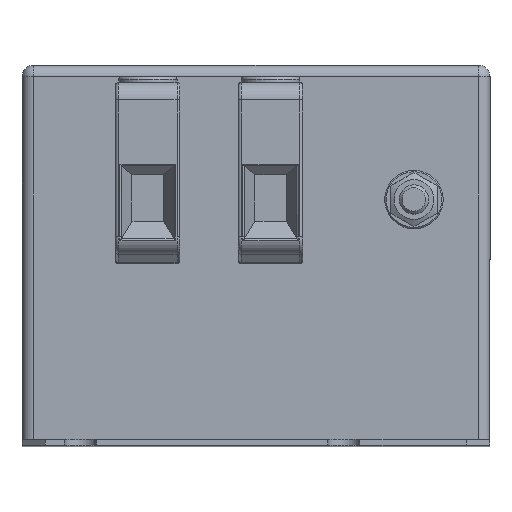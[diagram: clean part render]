
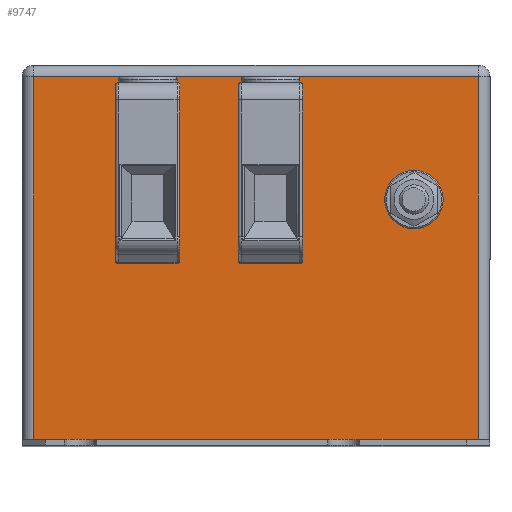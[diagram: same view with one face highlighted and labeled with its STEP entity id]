
A CAD part, top view. The second image highlights one B-rep face of the part: STEP entity #9747.
In plain terms, the highlighted planar face has unit normal (0, 0, 1).
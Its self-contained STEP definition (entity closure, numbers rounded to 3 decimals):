
#340=CARTESIAN_POINT('',(38.0,-31.5,70.0));
#341=VERTEX_POINT('',#340);
#349=CARTESIAN_POINT('',(-38.0,-31.5,70.0));
#350=VERTEX_POINT('',#349);
#351=CARTESIAN_POINT('',(-38.,-31.5,70.0));
#352=DIRECTION('',(1.0,0.0,0.0));
#353=VECTOR('',#352,76.0);
#354=LINE('',#351,#353);
#355=EDGE_CURVE('',#350,#341,#354,.T.);
#1167=CARTESIAN_POINT('',(38.,30.5,70.0));
#1168=VERTEX_POINT('',#1167);
#1176=CARTESIAN_POINT('',(38.,30.5,70.0));
#1177=DIRECTION('',(0.0,-1.0,0.0));
#1178=VECTOR('',#1177,62.);
#1179=LINE('',#1176,#1178);
#1180=EDGE_CURVE('',#1168,#341,#1179,.T.);
#1207=CARTESIAN_POINT('',(-38.,30.5,70.0));
#1208=VERTEX_POINT('',#1207);
#1216=CARTESIAN_POINT('',(-38.0,30.5,70.0));
#1217=DIRECTION('',(1.0,0.0,0.0));
#1218=VECTOR('',#1217,76.);
#1219=LINE('',#1216,#1218);
#1220=EDGE_CURVE('',#1208,#1168,#1219,.T.);
#1250=CARTESIAN_POINT('',(-38.,-31.5,70.0));
#1251=DIRECTION('',(0.0,1.0,0.0));
#1252=VECTOR('',#1251,62.);
#1253=LINE('',#1250,#1252);
#1254=EDGE_CURVE('',#350,#1208,#1253,.T.);
#6456=CARTESIAN_POINT('',(-13.5,-1.,70.0));
#6457=VERTEX_POINT('',#6456);
#6480=CARTESIAN_POINT('',(-13.5,29.,70.0));
#6481=VERTEX_POINT('',#6480);
#6516=CARTESIAN_POINT('',(-13.5,29.,70.0));
#6517=DIRECTION('',(0.0,-1.0,0.0));
#6518=VECTOR('',#6517,30.);
#6519=LINE('',#6516,#6518);
#6520=EDGE_CURVE('',#6481,#6457,#6519,.T.);
#6761=CARTESIAN_POINT('',(-23.5,29.,70.0));
#6762=VERTEX_POINT('',#6761);
#6772=CARTESIAN_POINT('',(-23.5,29.,70.0));
#6773=DIRECTION('',(1.0,0.0,0.0));
#6774=VECTOR('',#6773,10.0);
#6775=LINE('',#6772,#6774);
#6776=EDGE_CURVE('',#6762,#6481,#6775,.T.);
#6786=CARTESIAN_POINT('',(-23.5,-1.,70.0));
#6787=VERTEX_POINT('',#6786);
#6797=CARTESIAN_POINT('',(-23.5,-1.,70.0));
#6798=DIRECTION('',(1.0,0.0,0.0));
#6799=VECTOR('',#6798,10.0);
#6800=LINE('',#6797,#6799);
#6801=EDGE_CURVE('',#6787,#6457,#6800,.T.);
#7005=CARTESIAN_POINT('',(-23.5,-1.,70.0));
#7006=DIRECTION('',(0.0,1.0,0.0));
#7007=VECTOR('',#7006,30.);
#7008=LINE('',#7005,#7007);
#7009=EDGE_CURVE('',#6787,#6762,#7008,.T.);
#8525=CARTESIAN_POINT('',(7.5,-1.,70.0));
#8526=VERTEX_POINT('',#8525);
#8549=CARTESIAN_POINT('',(7.5,29.,70.0));
#8550=VERTEX_POINT('',#8549);
#8585=CARTESIAN_POINT('',(7.5,29.,70.0));
#8586=DIRECTION('',(0.0,-1.0,0.0));
#8587=VECTOR('',#8586,30.);
#8588=LINE('',#8585,#8587);
#8589=EDGE_CURVE('',#8550,#8526,#8588,.T.);
#8830=CARTESIAN_POINT('',(-2.5,29.,70.0));
#8831=VERTEX_POINT('',#8830);
#8841=CARTESIAN_POINT('',(-2.5,29.,70.0));
#8842=DIRECTION('',(1.0,0.0,0.0));
#8843=VECTOR('',#8842,10.0);
#8844=LINE('',#8841,#8843);
#8845=EDGE_CURVE('',#8831,#8550,#8844,.T.);
#8855=CARTESIAN_POINT('',(-2.5,-1.,70.0));
#8856=VERTEX_POINT('',#8855);
#8866=CARTESIAN_POINT('',(-2.5,-1.,70.0));
#8867=DIRECTION('',(1.0,0.0,0.0));
#8868=VECTOR('',#8867,10.0);
#8869=LINE('',#8866,#8868);
#8870=EDGE_CURVE('',#8856,#8526,#8869,.T.);
#9074=CARTESIAN_POINT('',(-2.5,-1.,70.0));
#9075=DIRECTION('',(0.0,1.0,0.0));
#9076=VECTOR('',#9075,30.);
#9077=LINE('',#9074,#9076);
#9078=EDGE_CURVE('',#8856,#8831,#9077,.T.);
#9713=CARTESIAN_POINT('',(0.,0.,70.0));
#9714=DIRECTION('',(0.0,0.0,1.0));
#9715=DIRECTION('',(1.0,0.0,0.0));
#9716=AXIS2_PLACEMENT_3D('',#9713,#9714,#9715);
#9717=PLANE('',#9716);
#9718=ORIENTED_EDGE('',*,*,#1254,.F.);
#9719=ORIENTED_EDGE('',*,*,#355,.T.);
#9720=ORIENTED_EDGE('',*,*,#1180,.F.);
#9721=ORIENTED_EDGE('',*,*,#1220,.F.);
#9722=EDGE_LOOP('',(#9718,#9719,#9720,#9721));
#9723=FACE_OUTER_BOUND('',#9722,.T.);
#9724=ORIENTED_EDGE('',*,*,#7009,.T.);
#9725=ORIENTED_EDGE('',*,*,#6776,.T.);
#9726=ORIENTED_EDGE('',*,*,#6520,.T.);
#9727=ORIENTED_EDGE('',*,*,#6801,.F.);
#9728=EDGE_LOOP('',(#9724,#9725,#9726,#9727));
#9729=FACE_BOUND('',#9728,.T.);
#9730=ORIENTED_EDGE('',*,*,#9078,.T.);
#9731=ORIENTED_EDGE('',*,*,#8845,.T.);
#9732=ORIENTED_EDGE('',*,*,#8589,.T.);
#9733=ORIENTED_EDGE('',*,*,#8870,.F.);
#9734=EDGE_LOOP('',(#9730,#9731,#9732,#9733));
#9735=FACE_BOUND('',#9734,.T.);
#9736=CARTESIAN_POINT('',(22.75,9.5,70.0));
#9737=VERTEX_POINT('',#9736);
#9738=CARTESIAN_POINT('',(27.0,9.5,70.0));
#9739=DIRECTION('',(0.0,0.0,-1.0));
#9740=DIRECTION('',(-1.0,0.0,0.0));
#9741=AXIS2_PLACEMENT_3D('',#9738,#9739,#9740);
#9742=CIRCLE('',#9741,4.25);
#9743=EDGE_CURVE('',#9737,#9737,#9742,.T.);
#9744=ORIENTED_EDGE('',*,*,#9743,.T.);
#9745=EDGE_LOOP('',(#9744));
#9746=FACE_BOUND('',#9745,.T.);
#9747=ADVANCED_FACE('',(#9723,#9729,#9735,#9746),#9717,.T.);
